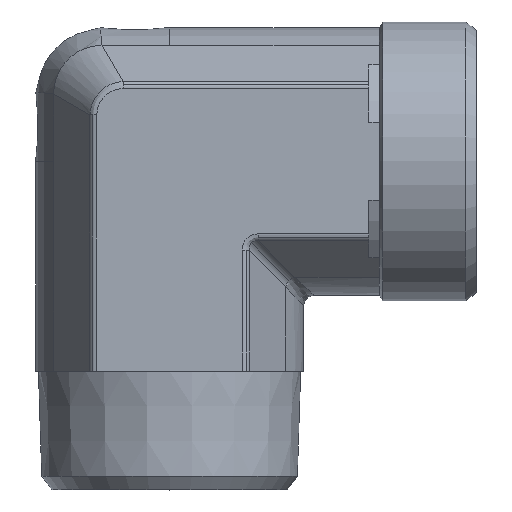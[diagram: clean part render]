
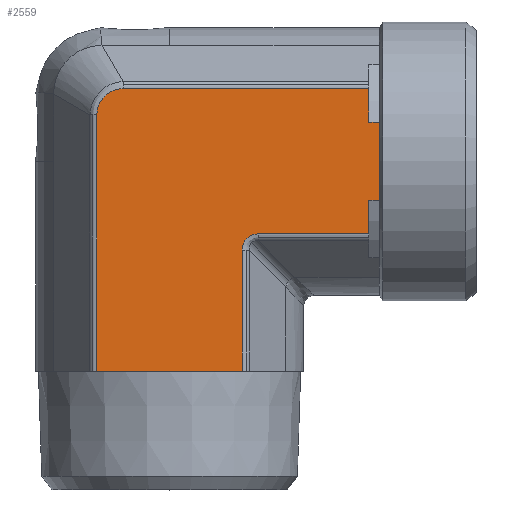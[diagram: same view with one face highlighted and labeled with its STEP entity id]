
A CAD part, top view. The second image highlights one B-rep face of the part: STEP entity #2559.
In plain terms, the highlighted planar face has unit normal (0, 0, 1) as drawn and (0, -1, 0) by its records, which use the part's own axes.
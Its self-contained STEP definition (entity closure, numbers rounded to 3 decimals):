
#361=CARTESIAN_POINT('',(12.027,-24.875,13.496));
#362=VERTEX_POINT('',#361);
#370=CARTESIAN_POINT('',(34.5,-24.875,13.496));
#371=VERTEX_POINT('',#370);
#372=CARTESIAN_POINT('',(12.027,-24.875,13.496));
#373=DIRECTION('',(1.0,0.0,0.0));
#374=VECTOR('',#373,22.473);
#375=LINE('',#372,#374);
#376=EDGE_CURVE('',#362,#371,#375,.T.);
#485=CARTESIAN_POINT('',(-17.996,-24.875,-8.614));
#486=VERTEX_POINT('',#485);
#494=CARTESIAN_POINT('',(-17.996,-24.875,37.));
#495=VERTEX_POINT('',#494);
#496=CARTESIAN_POINT('',(-17.996,-24.875,-8.614));
#497=DIRECTION('',(0.0,0.0,1.0));
#498=VECTOR('',#497,45.614);
#499=LINE('',#496,#498);
#500=EDGE_CURVE('',#486,#495,#499,.T.);
#1964=CARTESIAN_POINT('',(8.996,-24.875,37.));
#1965=VERTEX_POINT('',#1964);
#1966=CARTESIAN_POINT('',(2.75,-24.875,37.));
#1967=VERTEX_POINT('',#1966);
#1968=CARTESIAN_POINT('',(8.996,-24.875,37.));
#1969=DIRECTION('',(-1.0,0.0,0.0));
#1970=VECTOR('',#1969,6.246);
#1971=LINE('',#1968,#1970);
#1972=EDGE_CURVE('',#1965,#1967,#1971,.T.);
#2023=CARTESIAN_POINT('',(-11.75,-24.875,37.));
#2024=VERTEX_POINT('',#2023);
#2025=CARTESIAN_POINT('',(-11.75,-24.875,37.));
#2026=DIRECTION('',(-1.0,0.0,0.0));
#2027=VECTOR('',#2026,6.246);
#2028=LINE('',#2025,#2027);
#2029=EDGE_CURVE('',#2024,#495,#2028,.T.);
#2128=CARTESIAN_POINT('',(2.75,-24.875,39.0));
#2129=VERTEX_POINT('',#2128);
#2130=CARTESIAN_POINT('',(2.75,-24.875,37.));
#2131=DIRECTION('',(0.0,0.0,1.0));
#2132=VECTOR('',#2131,2.);
#2133=LINE('',#2130,#2132);
#2134=EDGE_CURVE('',#1967,#2129,#2133,.T.);
#2169=CARTESIAN_POINT('',(-11.75,-24.875,39.0));
#2170=VERTEX_POINT('',#2169);
#2171=CARTESIAN_POINT('',(-11.75,-24.875,39.0));
#2172=DIRECTION('',(0.0,0.0,-1.0));
#2173=VECTOR('',#2172,2.);
#2174=LINE('',#2171,#2173);
#2175=EDGE_CURVE('',#2170,#2024,#2174,.T.);
#2471=CARTESIAN_POINT('',(-4.5,-24.875,39.0));
#2472=VERTEX_POINT('',#2471);
#2473=CARTESIAN_POINT('',(-4.5,-24.875,39.0));
#2474=DIRECTION('',(-1.0,0.0,0.0));
#2475=VECTOR('',#2474,7.25);
#2476=LINE('',#2473,#2475);
#2477=EDGE_CURVE('',#2472,#2170,#2476,.T.);
#2495=CARTESIAN_POINT('',(-4.5,-24.875,-3.175));
#2496=DIRECTION('',(0.0,-1.0,0.0));
#2497=DIRECTION('',(0.0,0.0,-1.0));
#2498=AXIS2_PLACEMENT_3D('',#2495,#2496,#2497);
#2499=PLANE('',#2498);
#2500=ORIENTED_EDGE('',*,*,#2175,.T.);
#2501=ORIENTED_EDGE('',*,*,#2029,.T.);
#2502=ORIENTED_EDGE('',*,*,#500,.F.);
#2503=CARTESIAN_POINT('',(-13.114,-24.875,-13.496));
#2504=VERTEX_POINT('',#2503);
#2505=CARTESIAN_POINT('',(-17.996,-24.875,-8.614));
#2506=CARTESIAN_POINT('',(-17.996,-24.875,-8.931));
#2507=CARTESIAN_POINT('',(-17.964,-24.875,-9.252));
#2508=CARTESIAN_POINT('',(-17.798,-24.875,-10.069));
#2509=CARTESIAN_POINT('',(-17.618,-24.875,-10.55));
#2510=CARTESIAN_POINT('',(-16.964,-24.875,-11.711));
#2511=CARTESIAN_POINT('',(-16.383,-24.875,-12.319));
#2512=CARTESIAN_POINT('',(-14.915,-24.875,-13.236));
#2513=CARTESIAN_POINT('',(-14.016,-24.875,-13.496));
#2514=CARTESIAN_POINT('',(-13.114,-24.875,-13.496));
#2515=B_SPLINE_CURVE_WITH_KNOTS('',3,(#2505,#2506,#2507,#2508,#2509,#2510,#2511,#2512,#2513,#2514),.UNSPECIFIED.,.F.,.U.,(4,2,2,2,4),(-7.622,-6.669,-5.145,-2.706,0.0),.UNSPECIFIED.);
#2516=EDGE_CURVE('',#2504,#486,#2515,.F.);
#2517=ORIENTED_EDGE('',*,*,#2516,.F.);
#2518=CARTESIAN_POINT('',(34.5,-24.875,-13.496));
#2519=VERTEX_POINT('',#2518);
#2520=CARTESIAN_POINT('',(34.5,-24.875,-13.496));
#2521=DIRECTION('',(-1.0,0.0,0.0));
#2522=VECTOR('',#2521,47.614);
#2523=LINE('',#2520,#2522);
#2524=EDGE_CURVE('',#2519,#2504,#2523,.T.);
#2525=ORIENTED_EDGE('',*,*,#2524,.F.);
#2526=CARTESIAN_POINT('',(34.5,-24.875,-13.496));
#2527=DIRECTION('',(0.0,0.0,1.0));
#2528=VECTOR('',#2527,26.991);
#2529=LINE('',#2526,#2528);
#2530=EDGE_CURVE('',#2519,#371,#2529,.T.);
#2531=ORIENTED_EDGE('',*,*,#2530,.T.);
#2532=ORIENTED_EDGE('',*,*,#376,.F.);
#2533=CARTESIAN_POINT('',(8.996,-24.875,16.527));
#2534=VERTEX_POINT('',#2533);
#2535=CARTESIAN_POINT('',(13.037,-24.875,17.537));
#2536=DIRECTION('',(0.,-1.,0.));
#2537=DIRECTION('',(-0.707,0.,-0.707));
#2538=AXIS2_PLACEMENT_3D('',#2535,#2536,#2537);
#2539=ELLIPSE('',#2538,4.518,3.5);
#2540=EDGE_CURVE('',#2534,#362,#2539,.T.);
#2541=ORIENTED_EDGE('',*,*,#2540,.F.);
#2542=CARTESIAN_POINT('',(8.996,-24.875,37.));
#2543=DIRECTION('',(0.0,0.0,-1.0));
#2544=VECTOR('',#2543,20.473);
#2545=LINE('',#2542,#2544);
#2546=EDGE_CURVE('',#1965,#2534,#2545,.T.);
#2547=ORIENTED_EDGE('',*,*,#2546,.F.);
#2548=ORIENTED_EDGE('',*,*,#1972,.T.);
#2549=ORIENTED_EDGE('',*,*,#2134,.T.);
#2550=CARTESIAN_POINT('',(2.75,-24.875,39.0));
#2551=DIRECTION('',(-1.0,0.0,0.0));
#2552=VECTOR('',#2551,7.25);
#2553=LINE('',#2550,#2552);
#2554=EDGE_CURVE('',#2129,#2472,#2553,.T.);
#2555=ORIENTED_EDGE('',*,*,#2554,.T.);
#2556=ORIENTED_EDGE('',*,*,#2477,.T.);
#2557=EDGE_LOOP('',(#2500,#2501,#2502,#2517,#2525,#2531,#2532,#2541,#2547,#2548,#2549,#2555,#2556));
#2558=FACE_OUTER_BOUND('',#2557,.T.);
#2559=ADVANCED_FACE('',(#2558),#2499,.T.);
